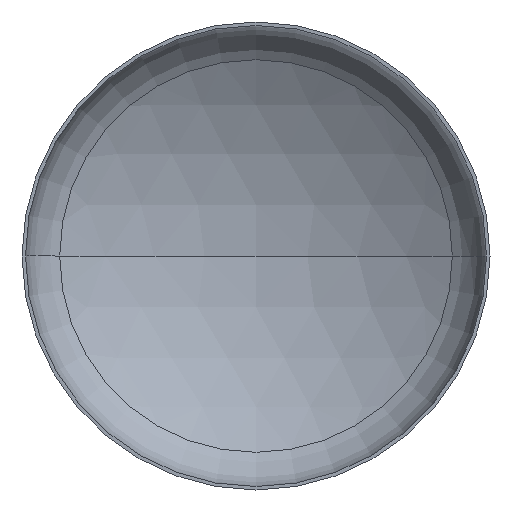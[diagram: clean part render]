
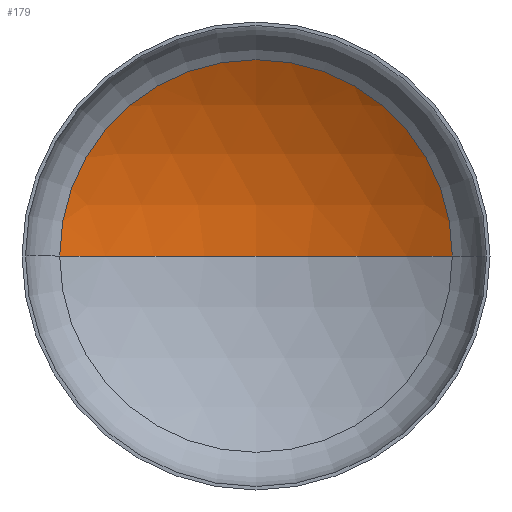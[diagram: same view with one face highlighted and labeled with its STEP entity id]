
A CAD part, front view. The second image highlights one B-rep face of the part: STEP entity #179.
In plain terms, the highlighted spherical face has radius 4400 mm.
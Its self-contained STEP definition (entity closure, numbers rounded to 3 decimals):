
#19 = DIRECTION ( 'NONE',  ( -1., 0., 0. ) ) ;
#35 = CIRCLE ( 'NONE', #183, 2307.06 ) ;
#37 = DIRECTION ( 'NONE',  ( 0., 0., -1. ) ) ;
#43 = CARTESIAN_POINT ( 'NONE',  ( 2307.06, 849.529, 0. ) ) ;
#79 = DIRECTION ( 'NONE',  ( 1., 0., 0. ) ) ;
#118 = EDGE_CURVE ( 'NONE', #177, #341, #35, .T. ) ;
#127 = EDGE_CURVE ( 'NONE', #140, #177, #299, .T. ) ;
#133 = EDGE_CURVE ( 'NONE', #140, #341, #216, .T. ) ;
#138 = CARTESIAN_POINT ( 'NONE',  ( 0., 1502.868, 0. ) ) ;
#140 = VERTEX_POINT ( 'NONE', #138 ) ;
#145 = DIRECTION ( 'NONE',  ( 0., -1., 0. ) ) ;
#149 = DIRECTION ( 'NONE',  ( 1., 0., 0. ) ) ;
#153 = CARTESIAN_POINT ( 'NONE',  ( 0., 849.529, 0. ) ) ;
#177 = VERTEX_POINT ( 'NONE', #43 ) ;
#178 = DIRECTION ( 'NONE',  ( 0., 0., 1. ) ) ;
#179 = ADVANCED_FACE ( 'NONE', ( #276 ), #203, .F. ) ;
#180 = CARTESIAN_POINT ( 'NONE',  ( 0., -2897.132, 0. ) ) ;
#183 = AXIS2_PLACEMENT_3D ( 'NONE', #153, #145, #149 ) ;
#193 = CARTESIAN_POINT ( 'NONE',  ( 0., -2897.132, 0. ) ) ;
#198 = ORIENTED_EDGE ( 'NONE', *, *, #133, .F. ) ;
#202 = AXIS2_PLACEMENT_3D ( 'NONE', #193, #210, #209 ) ;
#203 = SPHERICAL_SURFACE ( 'NONE', #343, 4400. ) ;
#209 = DIRECTION ( 'NONE',  ( -1., 0., 0. ) ) ;
#210 = DIRECTION ( 'NONE',  ( 0., 0., -1. ) ) ;
#214 = AXIS2_PLACEMENT_3D ( 'NONE', #180, #178, #79 ) ;
#216 = CIRCLE ( 'NONE', #214, 4400. ) ;
#235 = EDGE_LOOP ( 'NONE', ( #198, #386, #347 ) ) ;
#276 = FACE_OUTER_BOUND ( 'NONE', #235, .T. ) ;
#299 = CIRCLE ( 'NONE', #202, 4400. ) ;
#328 = CARTESIAN_POINT ( 'NONE',  ( -2307.06, 849.529, 0. ) ) ;
#341 = VERTEX_POINT ( 'NONE', #328 ) ;
#343 = AXIS2_PLACEMENT_3D ( 'NONE', #397, #37, #19 ) ;
#347 = ORIENTED_EDGE ( 'NONE', *, *, #118, .T. ) ;
#386 = ORIENTED_EDGE ( 'NONE', *, *, #127, .T. ) ;
#397 = CARTESIAN_POINT ( 'NONE',  ( 0., -2897.132, 0. ) ) ;
